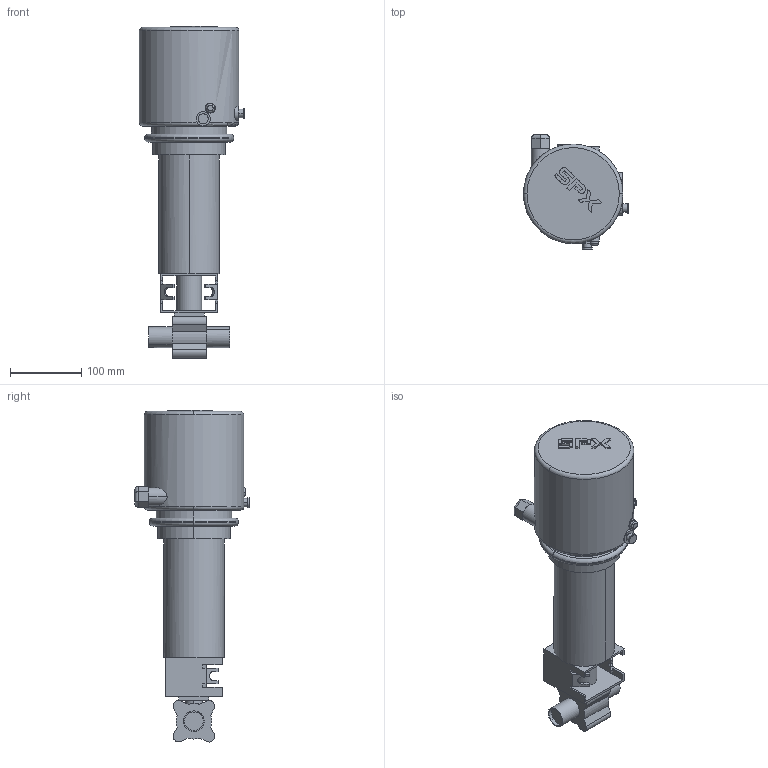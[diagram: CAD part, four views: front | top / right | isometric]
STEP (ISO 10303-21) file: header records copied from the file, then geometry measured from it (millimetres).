
FILE_DESCRIPTION(('Creo Elements/Direct Modeling STEP Export'),'2;1');
FILE_NAME('BLV1-DN25-NC-12S-CU4.stp','2019-05-09T13:55:50',(''),(''),'Creo Elements/Direct Modeling STEP processor for AP214 (Solid Model)','Creo Elements/Direct Modeling 19.0F 14-Feb-2017 (C) Parametric Technology GmbH','');
FILE_SCHEMA(('AUTOMOTIVE_DESIGN { 1 0 10303 214 1 1 1 1 }'));
Length unit declared in the file: millimetre
Products named in the file (2): BLV1-DN25-NC-12S-CU4
Assembly tree (1 placements, depth 2):
  BLV1-DN25-NC-12S-CU4
    BLV1-DN25-NC-12S-CU4
Bounding box: 148 x 161.4 x 467.21 mm (x, y, z)
Volume: 3744314.9 mm3; surface area: 229362.1 mm2
Topology: 1 solids, 1 shells, 227 faces, 584 edges, 382 vertices
Faces by surface type: plane 104, cylinder 80, extrusion 33, torus 10
Full cylindrical faces by diameter (mm): 140 x1
Entity records: 10231 total; most frequent: CARTESIAN_POINT 5047, ORIENTED_EDGE 1170, DIRECTION 904, EDGE_CURVE 585, VERTEX_POINT 382, VECTOR 312, AXIS2_PLACEMENT_3D 296, LINE 279
